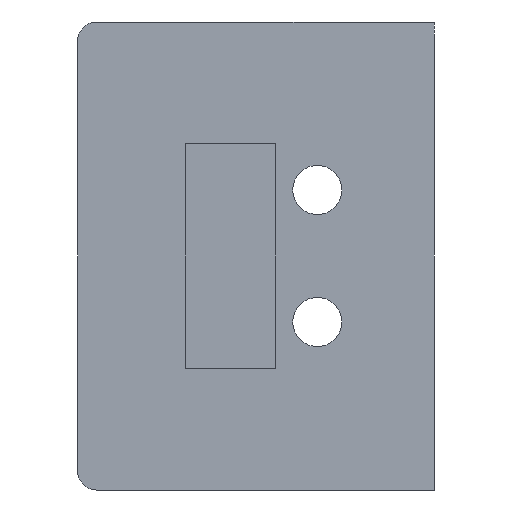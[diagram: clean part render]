
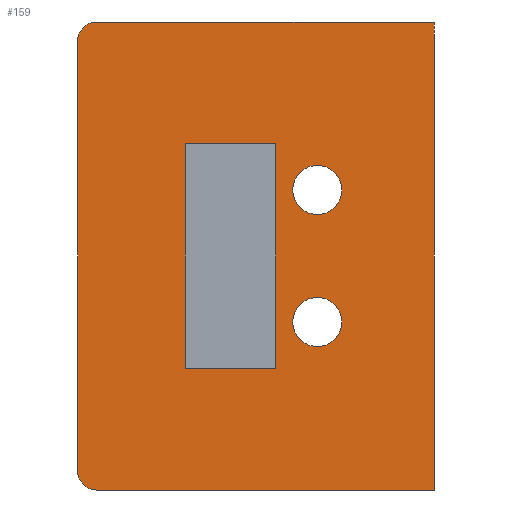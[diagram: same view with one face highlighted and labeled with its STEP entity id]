
A CAD part, front view. The second image highlights one B-rep face of the part: STEP entity #159.
In plain terms, the highlighted planar face has unit normal (0, -1, 0).
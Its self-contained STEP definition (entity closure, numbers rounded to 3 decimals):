
#42 = VERTEX_POINT ( 'NONE', #436 ) ;
#50 = EDGE_CURVE ( 'NONE', #42, #51, #429, .T. ) ;
#51 = VERTEX_POINT ( 'NONE', #467 ) ;
#54 = VERTEX_POINT ( 'NONE', #462 ) ;
#86 = EDGE_CURVE ( 'NONE', #87, #88, #486, .T. ) ;
#87 = VERTEX_POINT ( 'NONE', #419 ) ;
#88 = VERTEX_POINT ( 'NONE', #418 ) ;
#109 = EDGE_CURVE ( 'NONE', #110, #111, #526, .T. ) ;
#110 = VERTEX_POINT ( 'NONE', #383 ) ;
#111 = VERTEX_POINT ( 'NONE', #382 ) ;
#126 = ORIENTED_EDGE ( 'NONE', *, *, #127, .F. ) ;
#127 = EDGE_CURVE ( 'NONE', #275, #51, #771, .T. ) ;
#128 = EDGE_LOOP ( 'NONE', ( #129, #130, #567, #569, #258, #217 ) ) ;
#129 = ORIENTED_EDGE ( 'NONE', *, *, #192, .T. ) ;
#130 = ORIENTED_EDGE ( 'NONE', *, *, #520, .T. ) ;
#159 = ADVANCED_FACE ( 'NONE', ( #797, #796, #795, #794 ), #793, .F. ) ;
#162 = EDGE_LOOP ( 'NONE', ( #302, #310 ) ) ;
#190 = VERTEX_POINT ( 'NONE', #699 ) ;
#192 = EDGE_CURVE ( 'NONE', #193, #190, #828, .T. ) ;
#193 = VERTEX_POINT ( 'NONE', #824 ) ;
#204 = VERTEX_POINT ( 'NONE', #807 ) ;
#206 = EDGE_CURVE ( 'NONE', #207, #204, #622, .T. ) ;
#207 = VERTEX_POINT ( 'NONE', #618 ) ;
#217 = ORIENTED_EDGE ( 'NONE', *, *, #219, .T. ) ;
#219 = EDGE_CURVE ( 'NONE', #261, #193, #659, .T. ) ;
#258 = ORIENTED_EDGE ( 'NONE', *, *, #260, .F. ) ;
#260 = EDGE_CURVE ( 'NONE', #261, #512, #849, .T. ) ;
#261 = VERTEX_POINT ( 'NONE', #857 ) ;
#263 = EDGE_LOOP ( 'NONE', ( #265, #268, #271, #126 ) ) ;
#265 = ORIENTED_EDGE ( 'NONE', *, *, #274, .F. ) ;
#268 = ORIENTED_EDGE ( 'NONE', *, *, #269, .F. ) ;
#269 = EDGE_CURVE ( 'NONE', #42, #54, #848, .T. ) ;
#271 = ORIENTED_EDGE ( 'NONE', *, *, #50, .T. ) ;
#274 = EDGE_CURVE ( 'NONE', #54, #275, #855, .T. ) ;
#275 = VERTEX_POINT ( 'NONE', #851 ) ;
#302 = ORIENTED_EDGE ( 'NONE', *, *, #303, .T. ) ;
#303 = EDGE_CURVE ( 'NONE', #111, #110, #1005, .T. ) ;
#304 = EDGE_LOOP ( 'NONE', ( #343, #395 ) ) ;
#310 = ORIENTED_EDGE ( 'NONE', *, *, #109, .T. ) ;
#343 = ORIENTED_EDGE ( 'NONE', *, *, #345, .T. ) ;
#345 = EDGE_CURVE ( 'NONE', #88, #87, #922, .T. ) ;
#382 = CARTESIAN_POINT ( 'NONE',  ( 23., 7., 24. ) ) ;
#383 = CARTESIAN_POINT ( 'NONE',  ( 23., 7., 11. ) ) ;
#384 = DIRECTION ( 'NONE',  ( 0., 0., 1. ) ) ;
#385 = DIRECTION ( 'NONE',  ( 0., 1., 0. ) ) ;
#386 = CARTESIAN_POINT ( 'NONE',  ( 23., 7., 17.5 ) ) ;
#387 = AXIS2_PLACEMENT_3D ( 'NONE', #386, #385, #384 ) ;
#395 = ORIENTED_EDGE ( 'NONE', *, *, #86, .T. ) ;
#418 = CARTESIAN_POINT ( 'NONE',  ( 23., 7., -11. ) ) ;
#419 = CARTESIAN_POINT ( 'NONE',  ( 23., 7., -24. ) ) ;
#420 = DIRECTION ( 'NONE',  ( 0., 0., 1. ) ) ;
#421 = DIRECTION ( 'NONE',  ( 0., 1., 0. ) ) ;
#422 = CARTESIAN_POINT ( 'NONE',  ( 23., 7., -17.5 ) ) ;
#423 = AXIS2_PLACEMENT_3D ( 'NONE', #422, #421, #420 ) ;
#429 = LINE ( 'NONE', #470, #469 ) ;
#436 = CARTESIAN_POINT ( 'NONE',  ( 12., 7., 29.75 ) ) ;
#462 = CARTESIAN_POINT ( 'NONE',  ( -12., 7., 29.75 ) ) ;
#467 = CARTESIAN_POINT ( 'NONE',  ( 12., 7., -29.75 ) ) ;
#468 = DIRECTION ( 'NONE',  ( 0., 0., -1. ) ) ;
#469 = VECTOR ( 'NONE', #468, 1000. ) ;
#470 = CARTESIAN_POINT ( 'NONE',  ( 12., 7., 62. ) ) ;
#486 = CIRCLE ( 'NONE', #423, 6.5 ) ;
#512 = VERTEX_POINT ( 'NONE', #1144 ) ;
#520 = EDGE_CURVE ( 'NONE', #190, #207, #1071, .T. ) ;
#526 = CIRCLE ( 'NONE', #387, 6.5 ) ;
#566 = EDGE_CURVE ( 'NONE', #512, #204, #1066, .T. ) ;
#567 = ORIENTED_EDGE ( 'NONE', *, *, #206, .T. ) ;
#569 = ORIENTED_EDGE ( 'NONE', *, *, #566, .F. ) ;
#618 = CARTESIAN_POINT ( 'NONE',  ( -35.5, 7., -62. ) ) ;
#619 = DIRECTION ( 'NONE',  ( 1., 0., 0. ) ) ;
#620 = VECTOR ( 'NONE', #619, 1000. ) ;
#621 = CARTESIAN_POINT ( 'NONE',  ( 12., 7., -62. ) ) ;
#622 = LINE ( 'NONE', #621, #620 ) ;
#655 = DIRECTION ( 'NONE',  ( 0., 0., 1. ) ) ;
#656 = DIRECTION ( 'NONE',  ( 0., -1., 0. ) ) ;
#657 = CARTESIAN_POINT ( 'NONE',  ( -35.5, 7., 57. ) ) ;
#658 = AXIS2_PLACEMENT_3D ( 'NONE', #657, #656, #655 ) ;
#659 = CIRCLE ( 'NONE', #658, 5. ) ;
#699 = CARTESIAN_POINT ( 'NONE',  ( -40.5, 7., -57. ) ) ;
#722 = DIRECTION ( 'NONE',  ( 0., 0., 1. ) ) ;
#723 = DIRECTION ( 'NONE',  ( 0., 1., 0. ) ) ;
#724 = CARTESIAN_POINT ( 'NONE',  ( 12., 7., 62. ) ) ;
#725 = AXIS2_PLACEMENT_3D ( 'NONE', #724, #723, #722 ) ;
#768 = DIRECTION ( 'NONE',  ( 1., 0., 0. ) ) ;
#769 = VECTOR ( 'NONE', #768, 1000. ) ;
#770 = CARTESIAN_POINT ( 'NONE',  ( -40.5, 7., -29.75 ) ) ;
#771 = LINE ( 'NONE', #770, #769 ) ;
#793 = PLANE ( 'NONE',  #725 ) ;
#794 = FACE_OUTER_BOUND ( 'NONE', #128, .T. ) ;
#795 = FACE_BOUND ( 'NONE', #263, .T. ) ;
#796 = FACE_BOUND ( 'NONE', #304, .T. ) ;
#797 = FACE_BOUND ( 'NONE', #162, .T. ) ;
#807 = CARTESIAN_POINT ( 'NONE',  ( 54., 7., -62. ) ) ;
#824 = CARTESIAN_POINT ( 'NONE',  ( -40.5, 7., 57. ) ) ;
#825 = DIRECTION ( 'NONE',  ( 0., 0., -1. ) ) ;
#826 = VECTOR ( 'NONE', #825, 1000. ) ;
#827 = CARTESIAN_POINT ( 'NONE',  ( -40.5, 7., 62. ) ) ;
#828 = LINE ( 'NONE', #827, #826 ) ;
#829 = DIRECTION ( 'NONE',  ( 1., 0., 0. ) ) ;
#830 = CARTESIAN_POINT ( 'NONE',  ( -40.5, 7., 62. ) ) ;
#845 = DIRECTION ( 'NONE',  ( -1., 0., 0. ) ) ;
#846 = VECTOR ( 'NONE', #845, 1000. ) ;
#847 = CARTESIAN_POINT ( 'NONE',  ( -40.5, 7., 29.75 ) ) ;
#848 = LINE ( 'NONE', #847, #846 ) ;
#849 = LINE ( 'NONE', #830, #858 ) ;
#851 = CARTESIAN_POINT ( 'NONE',  ( -12., 7., -29.75 ) ) ;
#852 = DIRECTION ( 'NONE',  ( 0., 0., -1. ) ) ;
#853 = VECTOR ( 'NONE', #852, 1000. ) ;
#854 = CARTESIAN_POINT ( 'NONE',  ( -12., 7., 62. ) ) ;
#855 = LINE ( 'NONE', #854, #853 ) ;
#857 = CARTESIAN_POINT ( 'NONE',  ( -35.5, 7., 62. ) ) ;
#858 = VECTOR ( 'NONE', #829, 1000. ) ;
#918 = DIRECTION ( 'NONE',  ( 0., 0., 1. ) ) ;
#919 = DIRECTION ( 'NONE',  ( 0., 1., 0. ) ) ;
#920 = CARTESIAN_POINT ( 'NONE',  ( 23., 7., -17.5 ) ) ;
#921 = AXIS2_PLACEMENT_3D ( 'NONE', #920, #919, #918 ) ;
#922 = CIRCLE ( 'NONE', #921, 6.5 ) ;
#1001 = DIRECTION ( 'NONE',  ( 0., 0., 1. ) ) ;
#1002 = DIRECTION ( 'NONE',  ( 0., 1., 0. ) ) ;
#1003 = CARTESIAN_POINT ( 'NONE',  ( 23., 7., 17.5 ) ) ;
#1004 = AXIS2_PLACEMENT_3D ( 'NONE', #1003, #1002, #1001 ) ;
#1005 = CIRCLE ( 'NONE', #1004, 6.5 ) ;
#1063 = DIRECTION ( 'NONE',  ( 0., 0., -1. ) ) ;
#1064 = VECTOR ( 'NONE', #1063, 1000. ) ;
#1065 = CARTESIAN_POINT ( 'NONE',  ( 54., 7., 62. ) ) ;
#1066 = LINE ( 'NONE', #1065, #1064 ) ;
#1067 = DIRECTION ( 'NONE',  ( 0., 0., 1. ) ) ;
#1068 = DIRECTION ( 'NONE',  ( 0., -1., 0. ) ) ;
#1069 = CARTESIAN_POINT ( 'NONE',  ( -35.5, 7., -57. ) ) ;
#1070 = AXIS2_PLACEMENT_3D ( 'NONE', #1069, #1068, #1067 ) ;
#1071 = CIRCLE ( 'NONE', #1070, 5. ) ;
#1144 = CARTESIAN_POINT ( 'NONE',  ( 54., 7., 62. ) ) ;
